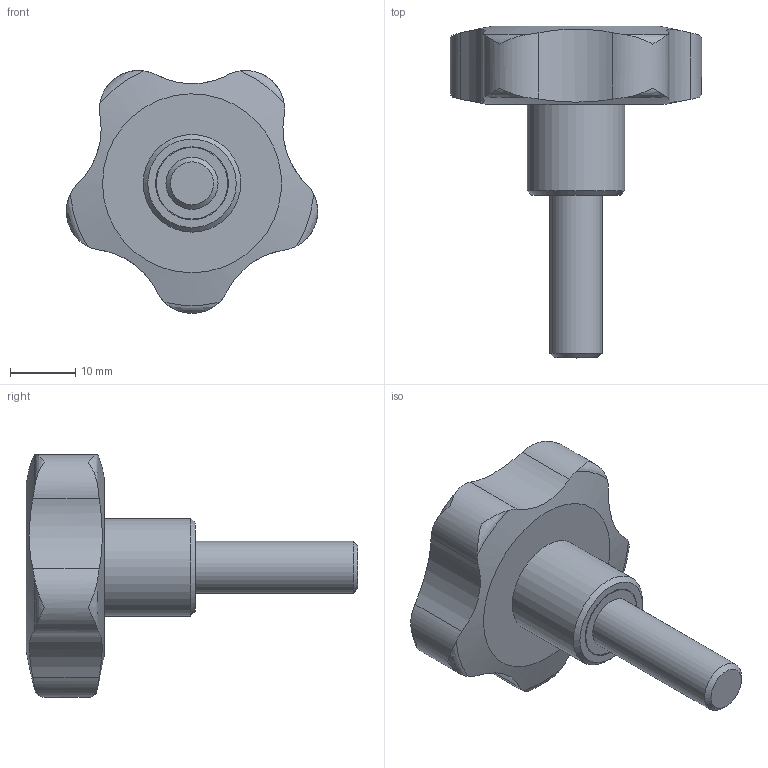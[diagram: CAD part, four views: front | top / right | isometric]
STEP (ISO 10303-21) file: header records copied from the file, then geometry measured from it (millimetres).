
FILE_DESCRIPTION( ( 'STEP AP203' ), '1' );
FILE_NAME( 'C:/Temp/Ganter_Step_05_03_2020/data/2_2/gn_5337_4/gn_5337_4_s/Star knob GN 5337.4-40-M8-25.stp', '2020-03-05T12:09:45', ( 'License CC BY-ND 4.0' ), ( 'CADENAS' ), ' ', 'PARTsolutions', ' ' );
FILE_SCHEMA( ( 'CONFIG_CONTROL_DESIGN' ) );
Length unit declared in the file: millimetre
Products named in the file (1): _Star knob GN 5337.4-40-M8-25
Bounding box: 38.62 x 51 x 37.33 mm (x, y, z)
Volume: 14729.1 mm3; surface area: 4479.6 mm2
Topology: 1 solids, 1 shells, 34 faces, 95 edges, 66 vertices
Faces by surface type: cylinder 14, torus 10, plane 5, cone 3, bspline 1, sphere 1
Full cylindrical faces by diameter (mm): 8 x1, 11 x1, 11.2 x1, 15 x1
Entity records: 1467 total; most frequent: CARTESIAN_POINT 679, ORIENTED_EDGE 164, DIRECTION 122, EDGE_CURVE 82, VERTEX_POINT 63, AXIS2_PLACEMENT_3D 56, B_SPLINE_CURVE_WITH_KNOTS 50, EDGE_LOOP 46
